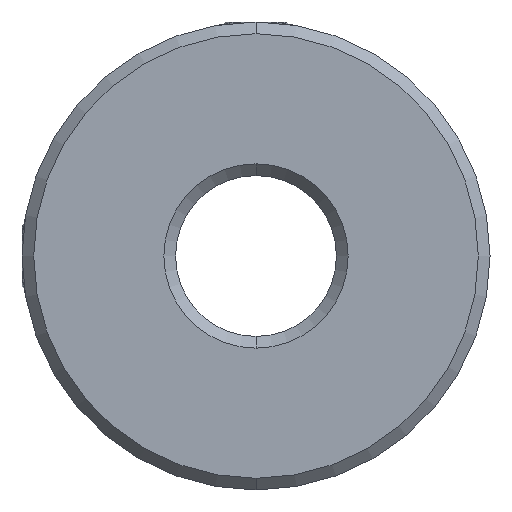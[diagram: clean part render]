
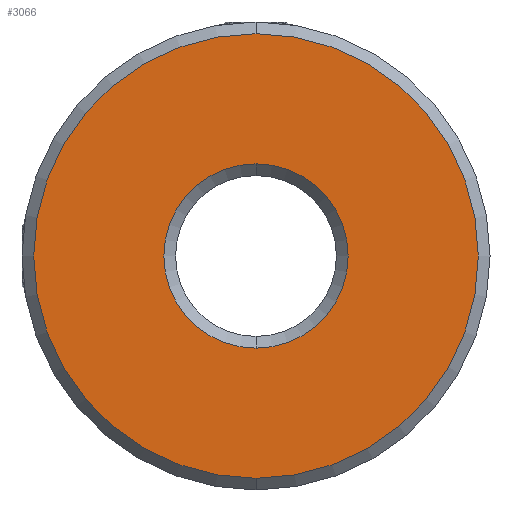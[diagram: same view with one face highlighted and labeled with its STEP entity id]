
A CAD part, front view. The second image highlights one B-rep face of the part: STEP entity #3066.
In plain terms, the highlighted planar face has unit normal (0, -1, 0).
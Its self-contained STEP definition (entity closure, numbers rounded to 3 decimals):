
#23 = PLANE ( 'NONE',  #2695 ) ;
#120 = AXIS2_PLACEMENT_3D ( 'NONE', #697, #2414, #993 ) ;
#184 = VERTEX_POINT ( 'NONE', #2512 ) ;
#229 = EDGE_CURVE ( 'NONE', #459, #184, #3593, .T. ) ;
#261 = VERTEX_POINT ( 'NONE', #3618 ) ;
#334 = CARTESIAN_POINT ( 'NONE',  ( -10.188, -0.277, 6.346 ) ) ;
#338 = EDGE_CURVE ( 'NONE', #184, #459, #3512, .T. ) ;
#442 = DIRECTION ( 'NONE',  ( 0., -1., 0. ) ) ;
#459 = VERTEX_POINT ( 'NONE', #334 ) ;
#599 = VERTEX_POINT ( 'NONE', #3149 ) ;
#633 = AXIS2_PLACEMENT_3D ( 'NONE', #817, #2760, #1064 ) ;
#697 = CARTESIAN_POINT ( 'NONE',  ( -10.188, -0.277, 0.046 ) ) ;
#817 = CARTESIAN_POINT ( 'NONE',  ( -10.188, -0.277, 0.046 ) ) ;
#884 = DIRECTION ( 'NONE',  ( 0., 0., 1. ) ) ;
#993 = DIRECTION ( 'NONE',  ( 0., 0., 1. ) ) ;
#1064 = DIRECTION ( 'NONE',  ( 0., 0., 1. ) ) ;
#1170 = DIRECTION ( 'NONE',  ( 0., 0., 1. ) ) ;
#1187 = ORIENTED_EDGE ( 'NONE', *, *, #3595, .T. ) ;
#1588 = DIRECTION ( 'NONE',  ( 0., 0., 1. ) ) ;
#1702 = DIRECTION ( 'NONE',  ( 0., -1., 0. ) ) ;
#1721 = CARTESIAN_POINT ( 'NONE',  ( -10.188, -0.277, 0.046 ) ) ;
#1729 = CARTESIAN_POINT ( 'NONE',  ( -10.188, -0.277, 0.046 ) ) ;
#1732 = ORIENTED_EDGE ( 'NONE', *, *, #3466, .T. ) ;
#1892 = ORIENTED_EDGE ( 'NONE', *, *, #229, .T. ) ;
#2030 = ORIENTED_EDGE ( 'NONE', *, *, #338, .T. ) ;
#2119 = AXIS2_PLACEMENT_3D ( 'NONE', #1721, #1702, #1170 ) ;
#2179 = AXIS2_PLACEMENT_3D ( 'NONE', #2975, #442, #1588 ) ;
#2233 = CIRCLE ( 'NONE', #2119, 15.2 ) ;
#2291 = EDGE_LOOP ( 'NONE', ( #1732, #1187 ) ) ;
#2414 = DIRECTION ( 'NONE',  ( 0., 1., 0. ) ) ;
#2512 = CARTESIAN_POINT ( 'NONE',  ( -10.188, -0.277, -6.254 ) ) ;
#2559 = FACE_BOUND ( 'NONE', #3078, .T. ) ;
#2638 = FACE_OUTER_BOUND ( 'NONE', #2291, .T. ) ;
#2695 = AXIS2_PLACEMENT_3D ( 'NONE', #1729, #2849, #884 ) ;
#2760 = DIRECTION ( 'NONE',  ( 0., 1., 0. ) ) ;
#2849 = DIRECTION ( 'NONE',  ( 0., 1., 0. ) ) ;
#2975 = CARTESIAN_POINT ( 'NONE',  ( -10.188, -0.277, 0.046 ) ) ;
#3066 = ADVANCED_FACE ( 'NONE', ( #2638, #2559 ), #23, .F. ) ;
#3078 = EDGE_LOOP ( 'NONE', ( #2030, #1892 ) ) ;
#3149 = CARTESIAN_POINT ( 'NONE',  ( -10.188, -0.277, -15.154 ) ) ;
#3405 = CIRCLE ( 'NONE', #2179, 15.2 ) ;
#3466 = EDGE_CURVE ( 'NONE', #261, #599, #3405, .T. ) ;
#3512 = CIRCLE ( 'NONE', #120, 6.3 ) ;
#3593 = CIRCLE ( 'NONE', #633, 6.3 ) ;
#3595 = EDGE_CURVE ( 'NONE', #599, #261, #2233, .T. ) ;
#3618 = CARTESIAN_POINT ( 'NONE',  ( -10.188, -0.277, 15.246 ) ) ;
